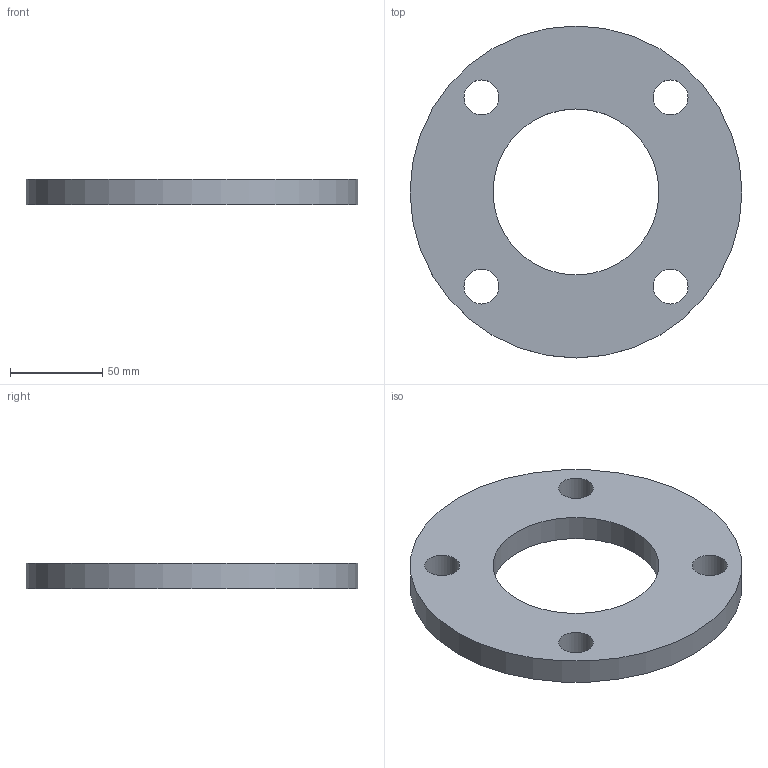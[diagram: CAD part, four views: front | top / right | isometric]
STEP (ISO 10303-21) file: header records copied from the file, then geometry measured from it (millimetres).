
FILE_DESCRIPTION(/* description */ (''),/* implementation_level */ '2;1');
FILE_NAME(/* name */ 'C:\Users\unitec\Documents\Inventor\HP\フランジ\5ksop\5ksop-80.stp',/* time_stamp */ '2016-03-16T15:22:42+09:00',/* author */ ('unitec'),/* organization */ (''),/* preprocessor_version */ 'ST-DEVELOPER v15.2',/* originating_system */ 'Autodesk Inventor 2014',/* authorisation */ '');
FILE_SCHEMA (('AUTOMOTIVE_DESIGN { 1 0 10303 214 3 1 1 }'));
Length unit declared in the file: millimetre
Products named in the file (1): 5ksop-80
Bounding box: 180 x 180 x 14 mm (x, y, z)
Volume: 251314.8 mm3; surface area: 51120 mm2
Topology: 1 solids, 1 shells, 8 faces, 18 edges, 12 vertices
Faces by surface type: cylinder 6, plane 2
Full cylindrical faces by diameter (mm): 19 x4, 90 x1, 180 x1
Entity records: 245 total; most frequent: DIRECTION 42, CARTESIAN_POINT 33, EDGE_LOOP 24, ORIENTED_EDGE 24, AXIS2_PLACEMENT_3D 21, FACE_BOUND 18, CIRCLE 12, VERTEX_POINT 12
